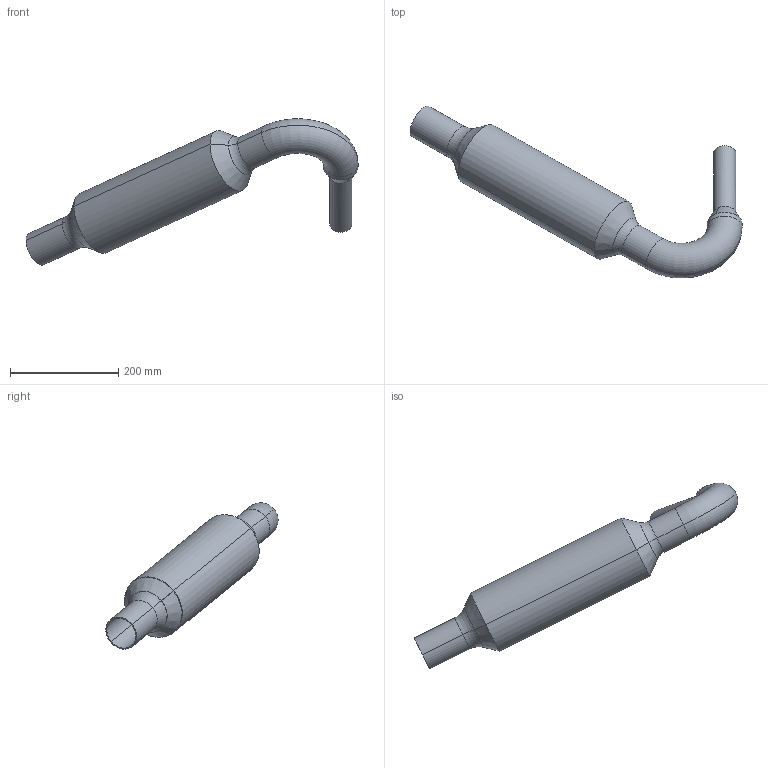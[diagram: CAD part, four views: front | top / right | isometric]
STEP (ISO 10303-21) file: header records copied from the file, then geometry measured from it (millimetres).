
FILE_DESCRIPTION(('STEP AP214'),'1');
FILE_NAME('D:/Data/geometry/auto/aftertreatment-part-1-solid-1.stp','2014-04-10T11:07:08',(' '),(' '),'Spatial InterOp 3D',' ',' ');
FILE_SCHEMA(('automotive_design'));
Length unit declared in the file: millimetre
Products named in the file (2): aftertreatment-part-1-solid-1; part1
Assembly tree (1 placements, depth 2):
  aftertreatment-part-1-solid-1
    part1
Bounding box: 613.69 x 318.23 x 270.51 mm (x, y, z)
Volume: 480413.6 mm3; surface area: 458373.7 mm2
Topology: 1 solids, 1 shells, 46 faces, 96 edges, 52 vertices
Faces by surface type: cylinder 20, torus 12, cone 8, bspline 4, plane 2
Entity records: 2080 total; most frequent: CARTESIAN_POINT 668, DIRECTION 236, ORIENTED_EDGE 192, AXIS2_PLACEMENT_3D 104, EDGE_CURVE 96, CIRCLE 60, VERTEX_POINT 52, EDGE_LOOP 48
